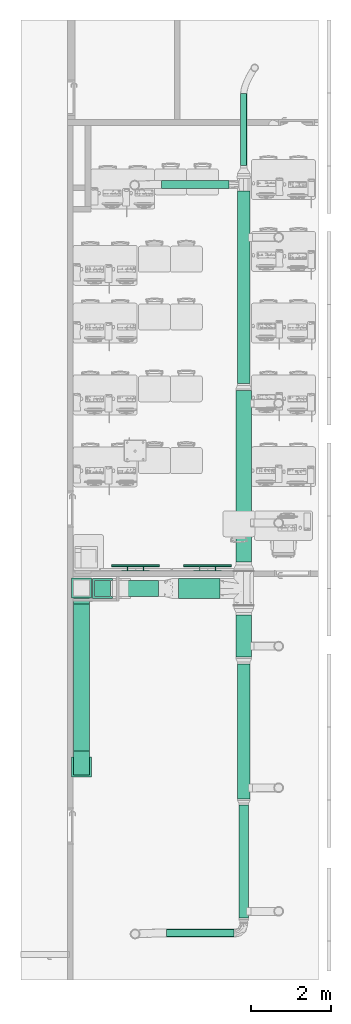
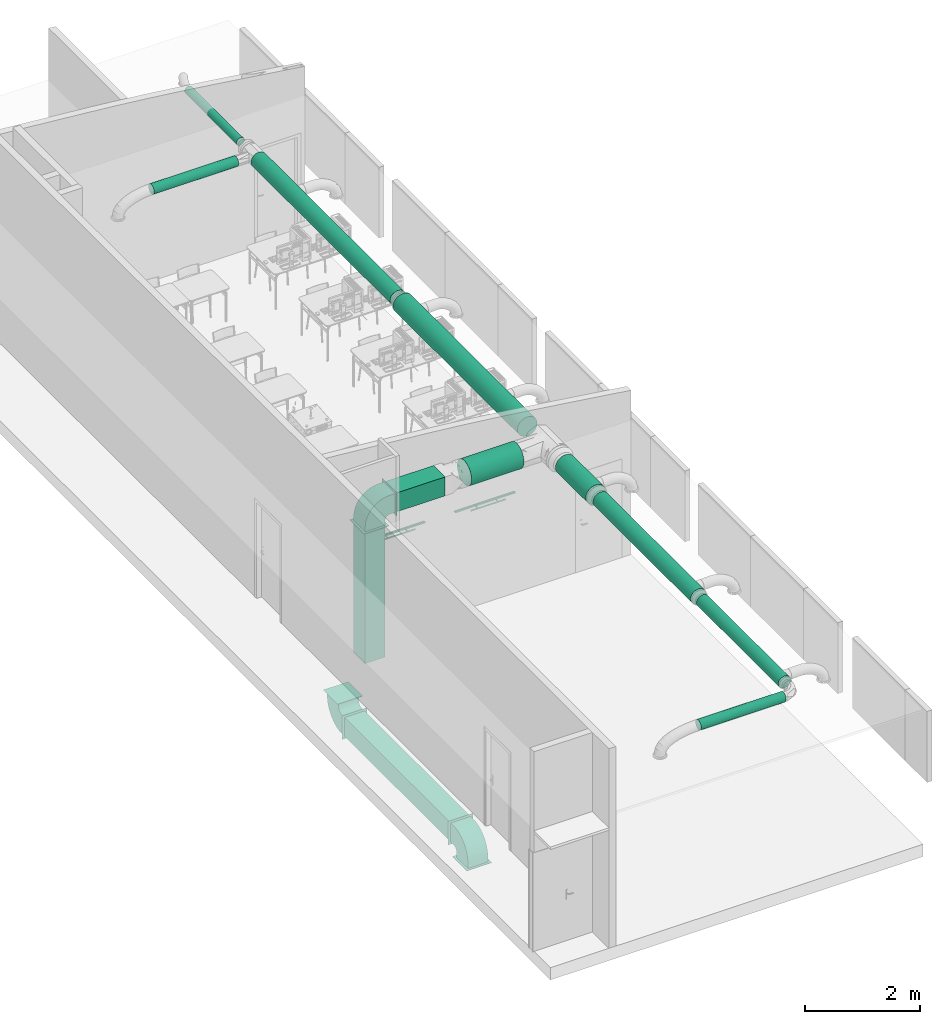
# One storey, part 7 of 31: 12 flow segments, 3 flow fittings, 2 flow terminals.
"""IFC2X3 building model written with IfcOpenShell, lengths in millimetres."""

from ifc_helpers import new_model, entity, si_unit, converted_unit, derived_unit, direction, frame, frame_2d, origin, origin_2d_with_axis, place, context, subcontext, project, spatial, polyline, circle_curve, parameter, trimmed, segment, composite_curve, rectangle, circle, outline, extrude, faceted_brep, source, transform, mapped, material, material_list, type_object, type_shapes, element, save


model = new_model("IFC2X3")

# Units and contexts
model_context = context("Model", 3, precision=0.01, world=origin(), true_north=direction((6.123031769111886e-17, 1.0)))
body_context = subcontext(model_context, "Body", "Model", "MODEL_VIEW")
ifc_project = project(units=[si_unit("LENGTHUNIT", "METRE", prefix="MILLI"), si_unit("AREAUNIT", "SQUARE_METRE"), si_unit("VOLUMEUNIT", "CUBIC_METRE"), converted_unit("PLANEANGLEUNIT", "DEGREE", entity("IfcRatioMeasure", 0.017453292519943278), si_unit("PLANEANGLEUNIT", "RADIAN"), dimensions=[0, 0, 0, 0, 0, 0, 0]), si_unit("MASSUNIT", "GRAM", prefix="KILO"), derived_unit("MASSDENSITYUNIT", [(si_unit("MASSUNIT", "GRAM", prefix="KILO"), 1), (si_unit("LENGTHUNIT", "METRE"), -3)]), derived_unit("MOMENTOFINERTIAUNIT", [(si_unit("LENGTHUNIT", "METRE"), 4)]), si_unit("TIMEUNIT", "SECOND"), si_unit("FREQUENCYUNIT", "HERTZ"), si_unit("THERMODYNAMICTEMPERATUREUNIT", "DEGREE_CELSIUS"), derived_unit("THERMALTRANSMITTANCEUNIT", [(si_unit("MASSUNIT", "GRAM", prefix="KILO"), 1), (si_unit("THERMODYNAMICTEMPERATUREUNIT", "KELVIN"), -1), (si_unit("TIMEUNIT", "SECOND"), -3)]), derived_unit("VOLUMETRICFLOWRATEUNIT", [(si_unit("LENGTHUNIT", "METRE"), 3), (si_unit("TIMEUNIT", "SECOND"), -1)]), derived_unit("MASSFLOWRATEUNIT", [(si_unit("MASSUNIT", "GRAM", prefix="KILO"), 1), (si_unit("TIMEUNIT", "SECOND"), -1)]), derived_unit("ROTATIONALFREQUENCYUNIT", [(si_unit("TIMEUNIT", "SECOND"), -1)]), si_unit("ELECTRICCURRENTUNIT", "AMPERE"), si_unit("ELECTRICVOLTAGEUNIT", "VOLT"), si_unit("POWERUNIT", "WATT"), si_unit("FORCEUNIT", "NEWTON", prefix="KILO"), si_unit("ILLUMINANCEUNIT", "LUX"), si_unit("LUMINOUSFLUXUNIT", "LUMEN"), si_unit("LUMINOUSINTENSITYUNIT", "CANDELA"), derived_unit("USERDEFINED", [(si_unit("MASSUNIT", "GRAM", prefix="KILO"), -1), (si_unit("LENGTHUNIT", "METRE"), -2), (si_unit("TIMEUNIT", "SECOND"), 3), (si_unit("LUMINOUSFLUXUNIT", "LUMEN"), 1)]), derived_unit("SOUNDPOWERUNIT", [(si_unit("MASSUNIT", "GRAM", prefix="KILO"), 1), (si_unit("LENGTHUNIT", "METRE"), 2), (si_unit("TIMEUNIT", "SECOND"), -3)]), derived_unit("SOUNDPRESSUREUNIT", [(si_unit("MASSUNIT", "GRAM", prefix="KILO"), 1), (si_unit("LENGTHUNIT", "METRE"), -1), (si_unit("TIMEUNIT", "SECOND"), -2)]), derived_unit("LINEARVELOCITYUNIT", [(si_unit("LENGTHUNIT", "METRE"), 1), (si_unit("TIMEUNIT", "SECOND"), -1)]), si_unit("PRESSUREUNIT", "PASCAL"), derived_unit("USERDEFINED", [(si_unit("LENGTHUNIT", "METRE"), -2), (si_unit("MASSUNIT", "GRAM", prefix="KILO"), 1), (si_unit("TIMEUNIT", "SECOND"), -2)]), derived_unit("LINEARFORCEUNIT", [(si_unit("MASSUNIT", "GRAM", prefix="KILO"), 1), (si_unit("LENGTHUNIT", "METRE"), 1), (si_unit("TIMEUNIT", "SECOND"), -2), (si_unit("LENGTHUNIT", "METRE"), -1)]), derived_unit("PLANARFORCEUNIT", [(si_unit("MASSUNIT", "GRAM", prefix="KILO"), 1), (si_unit("LENGTHUNIT", "METRE"), 1), (si_unit("TIMEUNIT", "SECOND"), -2), (si_unit("LENGTHUNIT", "METRE"), -2)])], contexts=[model_context])

# Site, building, storey
site_placement = place(None, origin())
site = spatial("IfcSite", under=ifc_project, at=site_placement, Name="Default", CompositionType="ELEMENT")
building_placement = place(site_placement, origin())
building = spatial("IfcBuilding", under=site, at=building_placement, CompositionType="ELEMENT")
storey_placement = place(building_placement, frame((0.0, 0.0, 3880.0)))
storey = spatial("IfcBuildingStorey", under=building, at=storey_placement, Name="Niveau 1", CompositionType="ELEMENT", Elevation=3880.0)

# Flow segments
duct_segment_type_1 = type_object("IfcDuctSegmentType", Name="Gaine circulaire:Té / Coude Aldes", PredefinedType="NOTDEFINED")
flow_segment_1_placement = place(storey_placement, origin())
element("IfcFlowSegment", 1, at=flow_segment_1_placement, inside=storey, type_object=duct_segment_type_1, Name="Gaine circulaire:Té / Coude Aldes", ObjectType="Gaine circulaire:Té / Coude Aldes", context=body_context, shape_type="SweptSolid", body=[
    extrude(circle(Radius=250.00000000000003, at=frame_2d((2.1657342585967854e-12, 0.0), x_axis=(1.0, 0.0))), frame((-3835.7425239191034, -14573.552532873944, 3150.0), z_axis=(1.0, 0.0, 0.0), x_axis=(0.0, -1.0, 0.0)), (0.0, 0.0, 1.0), 1050.7425239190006),
])
flow_segment_2_placement = place(storey_placement, origin())
element("IfcFlowSegment", 2, at=flow_segment_2_placement, inside=storey, type_object=duct_segment_type_1, Name="Gaine circulaire:Té / Coude Aldes", ObjectType="Gaine circulaire:Té / Coude Aldes", context=body_context, shape_type="SweptSolid", body=[
    extrude(circle(Radius=200.0, at=frame_2d((5.414335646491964e-13, 0.0), x_axis=(1.0, 0.0))), frame((-2195.0, -16291.0, 3150.0), z_axis=(0.0, 1.0, 0.0), x_axis=(-1.0, 0.0, 0.0)), (0.0, 0.0, 1.0), 1056.0000000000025),
])
flow_segment_3_placement = place(storey_placement, origin())
element("IfcFlowSegment", 3, at=flow_segment_3_placement, inside=storey, type_object=duct_segment_type_1, Name="Gaine circulaire:Té / Coude Aldes", ObjectType="Gaine circulaire:Té / Coude Aldes", context=body_context, shape_type="SweptSolid", body=[
    extrude(circle(Radius=157.5, at=frame_2d((2.707167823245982e-13, 0.0), x_axis=(1.0, 0.0))), frame((-2195.0, -19850.299028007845, 3150.0), z_axis=(0.0, 1.0, 0.0), x_axis=(-1.0, 0.0, 0.0)), (0.0, 0.0, 1.0), 3386.2990280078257),
])
flow_segment_4_placement = place(storey_placement, origin())
element("IfcFlowSegment", 4, at=flow_segment_4_placement, inside=storey, type_object=duct_segment_type_1, Name="Gaine circulaire:Té / Coude Aldes", ObjectType="Gaine circulaire:Té / Coude Aldes", context=body_context, shape_type="SweptSolid", body=[
    extrude(circle(Radius=125.00000000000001, at=frame_2d((-6.767919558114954e-12, 0.0), x_axis=(1.0, 0.0))), frame((-2195.0, -22835.552532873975, 3150.0), z_axis=(0.0, 1.0, 0.0), x_axis=(-1.0, 0.0, 0.0)), (0.0, 0.0, 1.0), 2837.2535048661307),
])
flow_segment_5_placement = place(storey_placement, origin())
element("IfcFlowSegment", 5, at=flow_segment_5_placement, inside=storey, type_object=duct_segment_type_1, Name="Gaine circulaire:Té / Coude Aldes", ObjectType="Gaine circulaire:Té / Coude Aldes", context=body_context, shape_type="SweptSolid", body=[
    extrude(circle(Radius=100.0, at=frame_2d((-8.662937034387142e-12, 0.0), x_axis=(1.0, 0.0))), frame((-4135.742523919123, -23210.0, 3150.0), z_axis=(1.0, 0.0, 0.0), x_axis=(0.0, 1.0, 0.0)), (0.0, 0.0, 1.0), 1700.742523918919),
])
flow_segment_6_placement = place(storey_placement, origin())
element("IfcFlowSegment", 6, at=flow_segment_6_placement, inside=storey, type_object=duct_segment_type_1, Name="Gaine circulaire:Té / Coude Aldes", ObjectType="Gaine circulaire:Té / Coude Aldes", context=body_context, shape_type="SweptSolid", body=[
    extrude(circle(Radius=200.0, at=frame_2d((5.414335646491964e-13, 0.0), x_axis=(1.0, 0.0))), frame((-2195.0, -13915.0, 3150.0), z_axis=(0.0, 1.0, 0.0), x_axis=(1.0, 0.0, 0.0)), (0.0, 0.0, 1.0), 4308.447467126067),
])
flow_segment_7_placement = place(storey_placement, origin())
element("IfcFlowSegment", 7, at=flow_segment_7_placement, inside=storey, type_object=duct_segment_type_1, Name="Gaine circulaire:Té / Coude Aldes", ObjectType="Gaine circulaire:Té / Coude Aldes", context=body_context, shape_type="SweptSolid", body=[
    extrude(circle(Radius=80.0, at=frame_2d((2.707167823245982e-13, 1.0828671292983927e-12), x_axis=(1.0, 0.0))), frame((-2195.0, -3968.55253287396, 3150.0), z_axis=(0.0, 1.0, 0.0), x_axis=(1.0, 0.0, 0.0)), (0.0, 0.0, 1.0), 1800.9999999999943),
])
flow_segment_8_placement = place(storey_placement, origin())
element("IfcFlowSegment", 8, at=flow_segment_8_placement, inside=storey, type_object=duct_segment_type_1, Name="Gaine circulaire:Té / Coude Aldes", ObjectType="Gaine circulaire:Té / Coude Aldes", context=body_context, shape_type="SweptSolid", body=[
    extrude(circle(Radius=157.5, at=frame_2d((2.707167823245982e-13, 0.0), x_axis=(1.0, 0.0))), frame((-2195.0, -9433.55253287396, 3150.0), z_axis=(0.0, 1.0, 0.0), x_axis=(1.0, 0.0, 0.0)), (0.0, 0.0, 1.0), 4831.197112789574),
])
flow_segment_9_placement = place(storey_placement, origin())
element("IfcFlowSegment", 9, at=flow_segment_9_placement, inside=storey, type_object=duct_segment_type_1, Name="Gaine circulaire:Té / Coude Aldes", ObjectType="Gaine circulaire:Té / Coude Aldes", context=body_context, shape_type="SweptSolid", body=[
    extrude(circle(Radius=100.0, at=frame_2d((5.414335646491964e-13, 0.0), x_axis=(1.0, 0.0))), frame((-4252.50000000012, -4442.3554200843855, 3150.0), z_axis=(1.0, 0.0, 0.0), x_axis=(0.0, 1.0, 0.0)), (0.0, 0.0, 1.0), 1693.0),
])
duct_segment_type_2 = type_object("IfcDuctSegmentType", Name="Gaine rectangulaire:Té / Coude à rayon bridé", PredefinedType="NOTDEFINED")
flow_segment_10_placement = place(storey_placement, origin())
element("IfcFlowSegment", 10, at=flow_segment_10_placement, inside=storey, type_object=duct_segment_type_2, Name="Gaine rectangulaire:Té / Coude à rayon bridé", ObjectType="Gaine rectangulaire:Té / Coude à rayon bridé", context=body_context, shape_type="SweptSolid", body=[
    extrude(rectangle(XDim=995.0000000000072, YDim=400.0, at=frame_2d((2.8421709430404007e-13, 0.0), x_axis=(1.0, 0.0))), frame((-4833.242523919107, -14573.55253287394, 2950.0), z_axis=(0.0, 0.0, 1.0), x_axis=(-1.0, 0.0, 0.0)), (0.0, 0.0, 1.0), 400.0),
])
flow_segment_11_placement = place(storey_placement, origin())
element("IfcFlowSegment", 11, at=flow_segment_11_placement, inside=storey, type_object=duct_segment_type_2, Name="Gaine rectangulaire:Té / Coude à rayon bridé", ObjectType="Gaine rectangulaire:Té / Coude à rayon bridé", context=body_context, shape_type="SweptSolid", body=[
    extrude(rectangle(XDim=400.0000000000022, YDim=399.9999999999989, at=origin_2d_with_axis()), frame((-5735.742523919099, -14573.552532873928, -42.204911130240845), z_axis=(0.0, 0.0, 1.0), x_axis=(0.0, 1.0, 0.0)), (0.0, 0.0, 1.0), 2787.20491113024),
])
flow_segment_12_placement = place(storey_placement, origin())
element("IfcFlowSegment", 12, at=flow_segment_12_placement, inside=storey, type_object=duct_segment_type_2, Name="Gaine rectangulaire:Té / Coude à rayon bridé", ObjectType="Gaine rectangulaire:Té / Coude à rayon bridé", context=body_context, shape_type="SweptSolid", body=[
    extrude(rectangle(XDim=3675.6071954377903, YDim=400.0, at=frame_2d((0.0, -5.542233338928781e-13), x_axis=(1.0, 0.0))), frame((-6260.536558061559, -16805.74893515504, -1280.0), z_axis=(0.0, 0.0, 1.0), x_axis=(0.0, -1.0, 0.0)), (0.0, 0.0, 1.0), 400.0),
])

# Flow fittings
ifc_material_1 = material(Name="<Unnamed>")
ifc_material_list_1 = material_list([ifc_material_1, ifc_material_1, ifc_material_1, ifc_material_1, ifc_material_1])
ifc_material_list_2 = material_list([ifc_material_1, ifc_material_1, ifc_material_1, ifc_material_1, ifc_material_1])
duct_fitting_type = type_object("IfcDuctFittingType", Name="Coude rectangulaire - Rayon constant - Bridé:100 R", PredefinedType="NOTDEFINED", material=ifc_material_list_2)
shared_shape_1 = source(origin(), body_context, "Body", "SweptSolid", [
    extrude(rectangle(XDim=104.99999999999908, YDim=400.0, at=frame_2d((3.197442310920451e-14, -1.4210854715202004e-14), x_axis=(1.0, 0.0))), frame((0.0, 352.50000000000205, -200.0), z_axis=(0.0, 0.0, 1.0), x_axis=(0.0, 1.0, 0.0)), (0.0, 0.0, 1.0), 400.0),
    extrude(rectangle(XDim=400.0, YDim=104.99999999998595, at=frame_2d((3.211653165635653e-12, -5.258016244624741e-13), x_axis=(1.0, 0.0))), frame((-352.4999999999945, 0.0, -200.0), z_axis=(0.0, 0.0, 1.0), x_axis=(0.0, -1.0, 0.0)), (0.0, 0.0, 1.0), 400.0),
    extrude(outline(composite_curve([segment(polyline([(-350.0, -150.0), (50.0, -150.0)]), True, "CONTINUOUS"), segment(trimmed(circle_curve(frame_2d((150.0, -150.0), x_axis=(0.0, 1.0)), 100.00000000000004), [parameter(0.0)], [parameter(89.99999999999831)], True, "PARAMETER"), False, "CONTINUOUS"), segment(polyline([(150.0, -50.0), (150.0, 350.0)]), True, "CONTINUOUS"), segment(trimmed(circle_curve(frame_2d((150.0, -150.0), x_axis=(0.0, 1.0)), 500.00000000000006), [parameter(0.0)], [parameter(89.99999999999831)], True, "PARAMETER"), True, "CONTINUOUS")], self_intersect=False)), frame((-150.0, 150.0, -200.0), z_axis=(0.0, 0.0, 1.0), x_axis=(-1.0, 0.0, 0.0)), (0.0, 0.0, 1.0), 400.0),
    extrude(rectangle(XDim=5.000000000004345, YDim=500.00000000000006, at=frame_2d((3.397282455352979e-14, 0.0), x_axis=(1.0, 0.0))), frame((-402.49999999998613, 0.0, -250.0)), (0.0, 0.0, 1.0), 500.00000000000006),
    extrude(rectangle(XDim=5.000000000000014, YDim=500.00000000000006, at=frame_2d((-3.375077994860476e-14, 0.0), x_axis=(1.0, 0.0))), frame((0.0, 402.5000000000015, -250.0), z_axis=(0.0, 0.0, 1.0), x_axis=(0.0, 1.0, 0.0)), (0.0, 0.0, 1.0), 500.00000000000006),
])
type_shapes(duct_fitting_type, [shared_shape_1])
flow_fitting_placement = place(storey_placement, frame((-5735.7425239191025, -14573.552532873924, 3150.0), z_axis=(0.0, -1.0, 0.0), x_axis=(-1.0, 0.0, 0.0)))
element("IfcFlowFitting", 13, at=flow_fitting_placement, inside=storey, type_object=duct_fitting_type, material=ifc_material_list_1, Name="Coude rectangulaire - Rayon constant - Bridé:100 R", ObjectType="Coude rectangulaire - Rayon constant - Bridé:100 R", context=body_context, shape_type="MappedRepresentation", body=[
    mapped(shared_shape_1, transform((0.0, 0.0, 0.0), scale=1.0)),
])
for number, where, z_axis, x_axis, name in (
    (14, (-6260.5365580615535, -14562.945337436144, -1080.0), (-1.0, 0.0, 0.0), (0.0, 0.0, -1.0), "Coude rectangulaire - Rayon constant - Bridé:100 R"),
    (15, (-6260.536558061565, -19048.552532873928, -1080.0), (1.0, 0.0, 0.0), (0.0, -1.0, 0.0), "Coude rectangulaire - Rayon constant - Bridé:100 R"),
):
    element("IfcFlowFitting", number, at=place(storey_placement, frame(where, z_axis=z_axis, x_axis=x_axis)), inside=storey, type_object=duct_fitting_type, material=ifc_material_1, Name=name, ObjectType="Coude rectangulaire - Rayon constant - Bridé:100 R", context=body_context, shape_type="MappedRepresentation", body=[
        mapped(shared_shape_1, transform((0.0, 0.0, 0.0), scale=1.0)),
    ])

# Flow terminals
ifc_material_2 = material(Name="Peinture - Ivoire")
ifc_material_list_3 = material_list([ifc_material_2, ifc_material_2, ifc_material_2, ifc_material_2])
ifc_material_list_4 = material_list([ifc_material_2, ifc_material_2, ifc_material_2, ifc_material_2])
light_fixture_type = type_object("IfcLightFixtureType", Name="Lampe de bureau:Néon 1.20 m", PredefinedType="NOTDEFINED", material=ifc_material_list_4)
shared_shape_2 = source(origin(), body_context, "Body", "Brep", [
    faceted_brep([(397.4118095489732, 93.19999999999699, 12.597479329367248), (395.0, 93.19999999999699, 13.596483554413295), (392.928932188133, 93.19999999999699, 15.185669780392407), (391.33974596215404, 93.19999999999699, 17.256737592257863), (390.34074173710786, 93.19999999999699, 19.66854714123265), (390.0, 93.19999999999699, 22.25673759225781), (390.3407417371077, 93.19999999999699, 24.84492804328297), (391.33974596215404, 93.19999999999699, 27.256737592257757), (392.928932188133, 93.19999999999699, 29.327805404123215), (395.0, 93.19999999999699, 30.916991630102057), (397.4118095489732, 93.19999999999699, 31.915995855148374), (400.0, 93.19999999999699, 32.2567375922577), (402.58819045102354, 93.19999999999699, 31.915995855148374), (405.0, 93.19999999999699, 30.916991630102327), (407.07106781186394, 93.19999999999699, 29.327805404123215), (408.6602540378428, 93.19999999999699, 27.256737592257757), (409.6592582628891, 93.19999999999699, 24.84492804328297), (410.0, 93.19999999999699, 22.25673759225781), (409.6592582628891, 93.19999999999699, 19.66854714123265), (408.6602540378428, 93.19999999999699, 17.256737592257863), (407.07106781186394, 93.19999999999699, 15.185669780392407), (405.0, 93.19999999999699, 13.596483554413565), (402.5881904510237, 93.19999999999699, 12.597479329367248), (400.0, 93.19999999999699, 12.256737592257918), (395.0, 10.0, 30.916991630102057), (392.928932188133, 10.0, 29.327805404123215), (391.33974596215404, 10.0, 27.256737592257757), (390.3407417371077, 10.0, 24.84492804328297), (390.0, 10.0, 22.25673759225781), (390.34074173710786, 10.0, 19.66854714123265), (391.33974596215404, 10.0, 17.256737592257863), (392.928932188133, 10.0, 15.185669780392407), (395.0, 10.0, 13.596483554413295), (397.4118095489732, 10.0, 12.597479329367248), (400.0, 10.0, 12.256737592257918), (402.5881904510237, 10.0, 12.597479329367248), (405.0, 10.0, 13.596483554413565), (407.07106781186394, 10.0, 15.185669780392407), (408.6602540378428, 10.0, 17.256737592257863), (409.6592582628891, 10.0, 19.66854714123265), (410.0, 10.0, 22.25673759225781), (409.6592582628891, 10.0, 24.84492804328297), (408.6602540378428, 10.0, 27.256737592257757), (407.07106781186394, 10.0, 29.327805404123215), (405.0, 10.0, 30.916991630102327), (402.58819045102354, 10.0, 31.915995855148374), (400.0, 10.0, 32.2567375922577), (397.4118095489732, 10.0, 31.915995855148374)], [[[0, 1, 2, 3, 4, 5, 6, 7, 8, 9, 10, 11, 12, 13, 14, 15, 16, 17, 18, 19, 20, 21, 22, 23]], [[24, 25, 26, 27, 28, 29, 30, 31, 32, 33, 34, 35, 36, 37, 38, 39, 40, 41, 42, 43, 44, 45, 46, 47]], [[27, 6, 5, 28]], [[26, 7, 6, 27]], [[9, 8, 25, 24]], [[26, 25, 8, 7]], [[10, 9, 24, 47]], [[11, 10, 47, 46]], [[45, 12, 11, 46]], [[44, 13, 12, 45]], [[15, 14, 43, 42]], [[44, 43, 14, 13]], [[16, 15, 42, 41]], [[17, 16, 41, 40]], [[39, 18, 17, 40]], [[38, 19, 18, 39]], [[21, 20, 37, 36]], [[38, 37, 20, 19]], [[22, 21, 36, 35]], [[35, 34, 23, 22]], [[33, 0, 23, 34]], [[32, 1, 0, 33]], [[32, 31, 2, 1]], [[31, 30, 3, 2]], [[4, 29, 28, 5]], [[29, 4, 3, 30]]]),
    faceted_brep([(797.4118095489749, 93.19999999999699, 12.597479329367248), (795.0, 93.19999999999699, 13.596483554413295), (792.9289321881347, 93.19999999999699, 15.185669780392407), (791.3397459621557, 93.19999999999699, 17.256737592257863), (790.3407417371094, 93.19999999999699, 19.66854714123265), (790.0, 93.19999999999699, 22.25673759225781), (790.3407417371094, 93.19999999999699, 24.84492804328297), (791.3397459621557, 93.19999999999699, 27.256737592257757), (792.9289321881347, 93.19999999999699, 29.327805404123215), (795.0, 93.19999999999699, 30.916991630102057), (797.4118095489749, 93.19999999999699, 31.915995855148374), (800.0, 93.19999999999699, 32.2567375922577), (802.5881904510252, 93.19999999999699, 31.915995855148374), (805.0, 93.19999999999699, 30.916991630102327), (807.0710678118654, 93.19999999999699, 29.327805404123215), (808.6602540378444, 93.19999999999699, 27.256737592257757), (809.6592582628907, 93.19999999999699, 24.84492804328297), (810.0, 93.19999999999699, 22.25673759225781), (809.6592582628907, 93.19999999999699, 19.66854714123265), (808.6602540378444, 93.19999999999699, 17.256737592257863), (807.0710678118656, 93.19999999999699, 15.185669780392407), (805.0, 93.19999999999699, 13.596483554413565), (802.5881904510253, 93.19999999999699, 12.597479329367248), (800.0, 93.19999999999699, 12.256737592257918), (795.0, 10.0, 30.916991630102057), (792.9289321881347, 10.0, 29.327805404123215), (791.3397459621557, 10.0, 27.256737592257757), (790.3407417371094, 10.0, 24.84492804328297), (790.0, 10.0, 22.25673759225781), (790.3407417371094, 10.0, 19.66854714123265), (791.3397459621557, 10.0, 17.256737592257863), (792.9289321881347, 10.0, 15.185669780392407), (795.0, 10.0, 13.596483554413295), (797.4118095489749, 10.0, 12.597479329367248), (800.0, 10.0, 12.256737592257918), (802.5881904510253, 10.0, 12.597479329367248), (805.0, 10.0, 13.596483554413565), (807.0710678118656, 10.0, 15.185669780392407), (808.6602540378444, 10.0, 17.256737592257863), (809.6592582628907, 10.0, 19.66854714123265), (810.0, 10.0, 22.25673759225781), (809.6592582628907, 10.0, 24.84492804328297), (808.6602540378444, 10.0, 27.256737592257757), (807.0710678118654, 10.0, 29.327805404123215), (805.0, 10.0, 30.916991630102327), (802.5881904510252, 10.0, 31.915995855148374), (800.0, 10.0, 32.2567375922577), (797.4118095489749, 10.0, 31.915995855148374)], [[[0, 1, 2, 3, 4, 5, 6, 7, 8, 9, 10, 11, 12, 13, 14, 15, 16, 17, 18, 19, 20, 21, 22, 23]], [[24, 25, 26, 27, 28, 29, 30, 31, 32, 33, 34, 35, 36, 37, 38, 39, 40, 41, 42, 43, 44, 45, 46, 47]], [[39, 18, 17, 40]], [[38, 19, 18, 39]], [[21, 20, 37, 36]], [[38, 37, 20, 19]], [[22, 21, 36, 35]], [[23, 22, 35, 34]], [[33, 0, 23, 34]], [[32, 1, 0, 33]], [[3, 2, 31, 30]], [[32, 31, 2, 1]], [[4, 3, 30, 29]], [[5, 4, 29, 28]], [[27, 6, 5, 28]], [[26, 7, 6, 27]], [[9, 8, 25, 24]], [[26, 25, 8, 7]], [[10, 9, 24, 47]], [[47, 46, 11, 10]], [[45, 12, 11, 46]], [[44, 13, 12, 45]], [[44, 43, 14, 13]], [[43, 42, 15, 14]], [[16, 41, 40, 17]], [[41, 16, 15, 42]]]),
    faceted_brep([(250.0, 10.0, 37.25673759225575), (950.0, 10.0, 37.25673759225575), (950.0, 10.0, 7.256737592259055), (250.0, 10.0, 7.256737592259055), (250.0, 0.0, 37.25673759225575), (250.0, 0.0, 7.256737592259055), (950.0, 0.0, 7.256737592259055), (950.0, 0.0, 37.25673759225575)], [[[0, 1, 2, 3]], [[4, 5, 6, 7]], [[1, 0, 4, 7]], [[2, 1, 7, 6]], [[3, 2, 6, 5]], [[0, 3, 5, 4]]]),
    faceted_brep([(0.0, 159.4863122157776, 13.766363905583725), (0.0, 161.85545198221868, 7.865639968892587), (0.0, 162.91084513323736, 1.595272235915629), (0.0, 93.1999999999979, 7.6941809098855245), (0.0, 93.19999999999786, 37.25673759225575), (0.0, 123.19999999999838, 37.25673759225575), (0.0, 145.85769467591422, 26.69128104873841), (0.0, 151.29884604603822, 23.401108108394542), (0.0, 155.91256587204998, 19.025613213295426), (1200.0, 93.19999999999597, 7.6941809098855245), (1200.0, 162.91084513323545, 1.5952722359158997), (1200.0, 161.85545198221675, 7.865639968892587), (1200.0, 159.48631221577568, 13.766363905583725), (1200.0, 155.91256587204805, 19.025613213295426), (1200.0, 151.29884604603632, 23.401108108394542), (1200.0, 145.85769467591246, 26.69128104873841), (1200.0, 123.19999999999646, 37.25673759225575), (1200.0, 93.19999999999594, 37.25673759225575), (10.0, 153.40415037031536, 2.4270002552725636), (10.0, 103.16194698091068, 6.822623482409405), (190.05148861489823, 162.91084513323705, 1.5952722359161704), (380.101190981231, 162.91084513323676, 1.5952722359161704), (475.12604216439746, 162.91084513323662, 1.5952722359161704), (570.150893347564, 162.91084513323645, 1.5952722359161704), (760.2005957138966, 162.91084513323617, 1.5952722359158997), (885.075446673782, 162.91084513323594, 1.595272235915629), (1009.9502976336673, 162.91084513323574, 1.5952722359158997), (1190.0, 153.40415037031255, 2.4270002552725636), (1190.0, 103.1619469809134, 6.822623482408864), (1049.9997039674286, 145.85769467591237, 26.69128104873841), (900.0, 145.8576946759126, 26.69128104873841), (750.0002960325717, 145.85769467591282, 26.69128104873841), (600.0, 145.8576946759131, 26.69128104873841), (490.0505426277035, 145.85769467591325, 26.69128104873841), (380.1004931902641, 145.85769467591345, 26.69128104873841), (190.04995056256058, 145.85769467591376, 26.69128104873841), (176.1688153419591, 160.82965189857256, 10.879747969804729), (333.5521915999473, 161.42981432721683, 9.2480248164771), (188.4319448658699, 157.84094879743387, 16.4921467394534), (176.16881537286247, 153.7234366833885, 21.337501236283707), (1021.8755844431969, 160.82965189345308, 10.87974798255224), (999.6859312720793, 157.8496154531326, 16.479385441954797), (490.0503738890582, 153.65999678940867, 21.397488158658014), (454.0527995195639, 158.00806553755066, 16.24351697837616), (332.9298780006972, 152.4539454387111, 22.47391768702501), (855.9829998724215, 161.60628857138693, 8.70356852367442), (872.3715989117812, 157.84094878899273, 16.492146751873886), (589.9231815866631, 157.29637267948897, 17.266645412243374), (314.6992161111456, 157.84094880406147, 16.492146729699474), (702.6392008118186, 153.63739499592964, 21.41877440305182), (862.1425454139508, 152.4571337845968, 22.471224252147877), (1018.1092536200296, 153.72343667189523, 21.33750124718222), (596.35309124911, 153.75482628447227, 21.307688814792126), (707.4694007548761, 159.66981756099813, 13.416151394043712), (534.481423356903, 160.68520488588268, 11.232921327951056), (733.2192576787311, 161.91014851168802, 7.668638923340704), (10.0, 153.83992908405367, 7.407973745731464), (1190.0, 153.83992908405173, 7.407973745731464), (1190.0, 103.59772569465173, 11.803596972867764), (10.0, 103.59772569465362, 11.803596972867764)], [[[0, 1, 2, 3, 4, 5, 6, 7, 8]], [[9, 10, 11, 12, 13, 14, 15, 16, 17]], [[2, 18, 19]], [[18, 2, 20]], [[19, 3, 2]], [[18, 20, 21]], [[18, 21, 22]], [[18, 22, 23]], [[18, 23, 24]], [[18, 24, 25]], [[18, 25, 26]], [[18, 26, 10]], [[10, 27, 18]], [[27, 10, 28]], [[9, 28, 10]], [[3, 19, 9]], [[28, 9, 19]], [[4, 3, 9, 17]], [[5, 4, 17, 16]], [[5, 16, 15, 29, 30, 31, 32, 33, 34, 35, 6]], [[36, 37, 20]], [[20, 2, 1]], [[11, 10, 26]], [[38, 8, 39]], [[11, 26, 40]], [[36, 1, 0]], [[40, 41, 12]], [[42, 43, 44]], [[15, 14, 29]], [[7, 6, 35]], [[45, 46, 40]], [[13, 12, 41]], [[40, 12, 11]], [[34, 42, 44]], [[8, 38, 0]], [[43, 42, 47]], [[44, 48, 39]], [[46, 49, 50]], [[13, 51, 14]], [[8, 7, 39]], [[29, 14, 51]], [[48, 38, 39]], [[50, 51, 46]], [[50, 30, 51]], [[45, 26, 25, 24]], [[51, 41, 46]], [[37, 36, 48]], [[20, 1, 36]], [[7, 35, 39]], [[44, 35, 34]], [[52, 32, 49]], [[46, 45, 53]], [[49, 53, 47]], [[54, 23, 22]], [[31, 30, 50]], [[49, 46, 53]], [[24, 23, 55]], [[53, 45, 55]], [[55, 54, 53]], [[53, 54, 47]], [[37, 48, 43]], [[20, 37, 22, 21]], [[35, 44, 39]], [[33, 32, 42, 34]], [[55, 45, 24]], [[22, 37, 54]], [[50, 49, 31]], [[43, 47, 54]], [[52, 47, 42]], [[37, 43, 54]], [[44, 43, 48]], [[51, 30, 29]], [[13, 41, 51]], [[40, 46, 41]], [[48, 36, 38]], [[0, 38, 36]], [[49, 32, 31]], [[26, 45, 40]], [[54, 55, 23]], [[32, 52, 42]], [[49, 47, 52]], [[56, 57, 58, 59]], [[27, 57, 56, 18]], [[18, 56, 59, 19]], [[19, 59, 58, 28]], [[28, 58, 57, 27]]]),
])
type_shapes(light_fixture_type, [shared_shape_2])
flow_terminal_1_placement = place(storey_placement, frame((-5506.267750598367, -14130.0, 1907.7432624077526)))
element("IfcFlowTerminal", 16, at=flow_terminal_1_placement, inside=storey, type_object=light_fixture_type, material=ifc_material_list_3, Name="Lampe de bureau:Néon 1.20 m", ObjectType="Lampe de bureau:Néon 1.20 m", context=body_context, shape_type="MappedRepresentation", body=[
    mapped(shared_shape_2, transform((0.0, 0.0, 0.0), scale=1.0)),
])
flow_terminal_2_placement = place(storey_placement, frame((-3700.0, -14130.0, 1907.7432624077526)))
element("IfcFlowTerminal", 17, at=flow_terminal_2_placement, inside=storey, type_object=light_fixture_type, material=ifc_material_2, Name="Lampe de bureau:Néon 1.20 m", ObjectType="Lampe de bureau:Néon 1.20 m", context=body_context, shape_type="MappedRepresentation", body=[
    mapped(shared_shape_2, transform((0.0, 0.0, 0.0), scale=1.0)),
])

save(model, "model.ifc")
